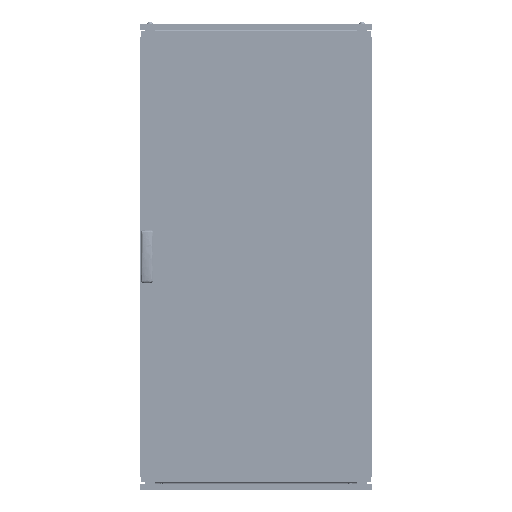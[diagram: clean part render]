
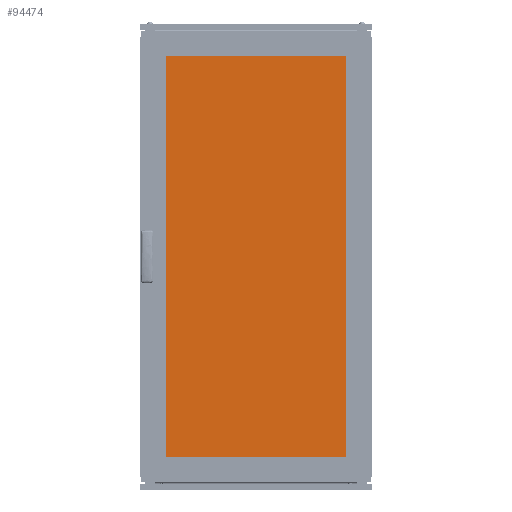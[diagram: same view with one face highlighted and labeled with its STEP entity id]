
A CAD part, top view. The second image highlights one B-rep face of the part: STEP entity #94474.
In plain terms, the highlighted planar face has unit normal (0, 0, 1).
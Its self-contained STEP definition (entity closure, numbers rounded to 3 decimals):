
#117 = VERTEX_POINT ( 'NONE', #5181 ) ;
#5181 = CARTESIAN_POINT ( 'NONE',  ( 330., -710., 5. ) ) ;
#8396 = CARTESIAN_POINT ( 'NONE',  ( -330., -710., 5. ) ) ;
#12629 = EDGE_LOOP ( 'NONE', ( #192836, #87598, #16759, #181367 ) ) ;
#16759 = ORIENTED_EDGE ( 'NONE', *, *, #147486, .T. ) ;
#27671 = AXIS2_PLACEMENT_3D ( 'NONE', #48921, #96611, #110420 ) ;
#34180 = EDGE_CURVE ( 'NONE', #183765, #173354, #37964, .T. ) ;
#35324 = DIRECTION ( 'NONE',  ( 0., 1., 0. ) ) ;
#36232 = VECTOR ( 'NONE', #35324, 1000. ) ;
#36260 = LINE ( 'NONE', #85019, #87312 ) ;
#37964 = LINE ( 'NONE', #71842, #167999 ) ;
#45787 = PLANE ( 'NONE',  #27671 ) ;
#48921 = CARTESIAN_POINT ( 'NONE',  ( 0., 0., 5. ) ) ;
#49026 = VECTOR ( 'NONE', #142829, 1000. ) ;
#62693 = EDGE_CURVE ( 'NONE', #117, #183765, #99931, .T. ) ;
#71842 = CARTESIAN_POINT ( 'NONE',  ( -330., 710., 5. ) ) ;
#76000 = VERTEX_POINT ( 'NONE', #8396 ) ;
#76168 = EDGE_CURVE ( 'NONE', #76000, #117, #188310, .T. ) ;
#85019 = CARTESIAN_POINT ( 'NONE',  ( -330., -710., 5. ) ) ;
#87312 = VECTOR ( 'NONE', #169587, 1000. ) ;
#87598 = ORIENTED_EDGE ( 'NONE', *, *, #34180, .T. ) ;
#94474 = ADVANCED_FACE ( 'NONE', ( #126355 ), #45787, .F. ) ;
#96611 = DIRECTION ( 'NONE',  ( 0., 0., -1. ) ) ;
#99931 = LINE ( 'NONE', #193128, #36232 ) ;
#110420 = DIRECTION ( 'NONE',  ( -1., 0., 0. ) ) ;
#116638 = CARTESIAN_POINT ( 'NONE',  ( -330., 710., 5. ) ) ;
#126355 = FACE_OUTER_BOUND ( 'NONE', #12629, .T. ) ;
#136352 = CARTESIAN_POINT ( 'NONE',  ( 330., 710., 5. ) ) ;
#136468 = DIRECTION ( 'NONE',  ( -1., 0., 0. ) ) ;
#142829 = DIRECTION ( 'NONE',  ( 1., 0., 0. ) ) ;
#147486 = EDGE_CURVE ( 'NONE', #173354, #76000, #36260, .T. ) ;
#167999 = VECTOR ( 'NONE', #136468, 1000. ) ;
#169587 = DIRECTION ( 'NONE',  ( 0., -1., 0. ) ) ;
#173354 = VERTEX_POINT ( 'NONE', #116638 ) ;
#181367 = ORIENTED_EDGE ( 'NONE', *, *, #76168, .T. ) ;
#183765 = VERTEX_POINT ( 'NONE', #136352 ) ;
#188310 = LINE ( 'NONE', #189368, #49026 ) ;
#189368 = CARTESIAN_POINT ( 'NONE',  ( -330., -710., 5. ) ) ;
#192836 = ORIENTED_EDGE ( 'NONE', *, *, #62693, .T. ) ;
#193128 = CARTESIAN_POINT ( 'NONE',  ( 330., -710., 5. ) ) ;
